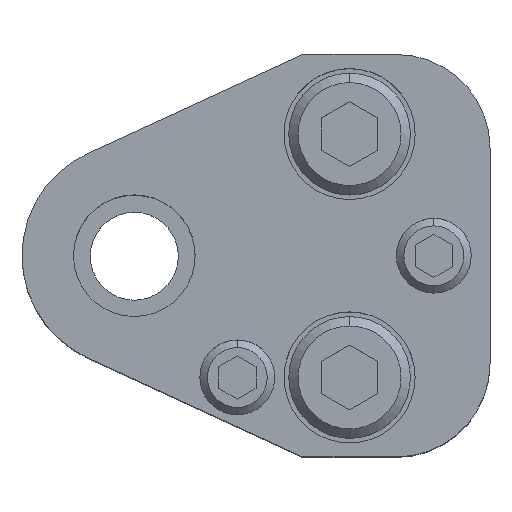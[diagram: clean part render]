
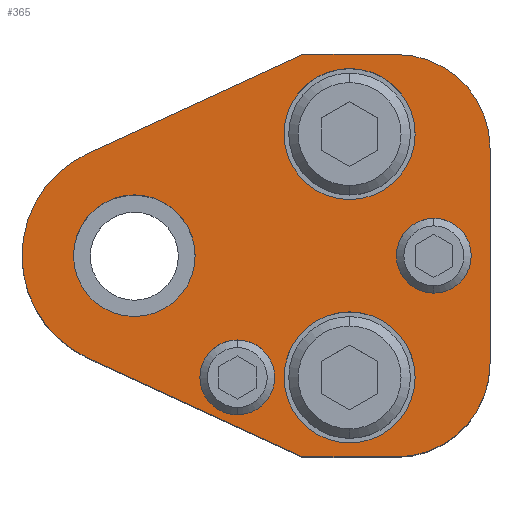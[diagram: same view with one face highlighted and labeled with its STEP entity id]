
A CAD part, top view. The second image highlights one B-rep face of the part: STEP entity #365.
In plain terms, the highlighted planar face has unit normal (0, 0, 1).
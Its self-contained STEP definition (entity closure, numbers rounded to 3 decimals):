
#134=PLANE('',#2757);
#204=FACE_BOUND('',#701,.T.);
#205=FACE_BOUND('',#702,.T.);
#206=FACE_BOUND('',#703,.T.);
#207=FACE_BOUND('',#704,.T.);
#208=FACE_BOUND('',#705,.T.);
#209=FACE_BOUND('',#706,.T.);
#365=ADVANCED_FACE('',(#204,#205,#206,#207,#208,#209),#134,.T.);
#701=EDGE_LOOP('',(#1265,#1266,#1267,#1268,#1269,#1270,#1271,#1272));
#702=EDGE_LOOP('',(#1273,#1274));
#703=EDGE_LOOP('',(#1275,#1276));
#704=EDGE_LOOP('',(#1277,#1278));
#705=EDGE_LOOP('',(#1279,#1280));
#706=EDGE_LOOP('',(#1281,#1282));
#859=CIRCLE('',#2700,12.);
#861=CIRCLE('',#2705,10.);
#863=CIRCLE('',#2709,10.);
#881=CIRCLE('',#2737,7.);
#883=CIRCLE('',#2740,7.);
#885=CIRCLE('',#2744,7.);
#887=CIRCLE('',#2747,7.);
#889=CIRCLE('',#2751,4.);
#890=CIRCLE('',#2752,4.);
#891=CIRCLE('',#2753,4.);
#892=CIRCLE('',#2754,4.);
#893=CIRCLE('',#2755,6.5);
#894=CIRCLE('',#2756,6.5);
#1265=ORIENTED_EDGE('',*,*,#1976,.T.);
#1266=ORIENTED_EDGE('',*,*,#1980,.T.);
#1267=ORIENTED_EDGE('',*,*,#1983,.T.);
#1268=ORIENTED_EDGE('',*,*,#1986,.T.);
#1269=ORIENTED_EDGE('',*,*,#1989,.T.);
#1270=ORIENTED_EDGE('',*,*,#1992,.T.);
#1271=ORIENTED_EDGE('',*,*,#1995,.T.);
#1272=ORIENTED_EDGE('',*,*,#1998,.T.);
#1273=ORIENTED_EDGE('',*,*,#2033,.F.);
#1274=ORIENTED_EDGE('',*,*,#2034,.F.);
#1275=ORIENTED_EDGE('',*,*,#2035,.F.);
#1276=ORIENTED_EDGE('',*,*,#2036,.F.);
#1277=ORIENTED_EDGE('',*,*,#2031,.F.);
#1278=ORIENTED_EDGE('',*,*,#2027,.F.);
#1279=ORIENTED_EDGE('',*,*,#2025,.F.);
#1280=ORIENTED_EDGE('',*,*,#2021,.F.);
#1281=ORIENTED_EDGE('',*,*,#2037,.T.);
#1282=ORIENTED_EDGE('',*,*,#2038,.T.);
#1716=VERTEX_POINT('',#3980);
#1717=VERTEX_POINT('',#3982);
#1720=VERTEX_POINT('',#3989);
#1722=VERTEX_POINT('',#3995);
#1724=VERTEX_POINT('',#4001);
#1726=VERTEX_POINT('',#4007);
#1728=VERTEX_POINT('',#4013);
#1730=VERTEX_POINT('',#4019);
#1747=VERTEX_POINT('',#4072);
#1748=VERTEX_POINT('',#4073);
#1751=VERTEX_POINT('',#4085);
#1752=VERTEX_POINT('',#4086);
#1755=VERTEX_POINT('',#4098);
#1756=VERTEX_POINT('',#4099);
#1757=VERTEX_POINT('',#4102);
#1758=VERTEX_POINT('',#4103);
#1759=VERTEX_POINT('',#4106);
#1760=VERTEX_POINT('',#4107);
#1976=EDGE_CURVE('',#1717,#1716,#859,.T.);
#1980=EDGE_CURVE('',#1716,#1720,#2266,.T.);
#1983=EDGE_CURVE('',#1720,#1722,#2269,.T.);
#1986=EDGE_CURVE('',#1722,#1724,#861,.T.);
#1989=EDGE_CURVE('',#1724,#1726,#2273,.T.);
#1992=EDGE_CURVE('',#1726,#1728,#863,.T.);
#1995=EDGE_CURVE('',#1728,#1730,#2277,.T.);
#1998=EDGE_CURVE('',#1730,#1717,#2280,.T.);
#2021=EDGE_CURVE('',#1747,#1748,#881,.T.);
#2025=EDGE_CURVE('',#1748,#1747,#883,.T.);
#2027=EDGE_CURVE('',#1751,#1752,#885,.T.);
#2031=EDGE_CURVE('',#1752,#1751,#887,.T.);
#2033=EDGE_CURVE('',#1755,#1756,#889,.T.);
#2034=EDGE_CURVE('',#1756,#1755,#890,.T.);
#2035=EDGE_CURVE('',#1757,#1758,#891,.T.);
#2036=EDGE_CURVE('',#1758,#1757,#892,.T.);
#2037=EDGE_CURVE('',#1759,#1760,#893,.T.);
#2038=EDGE_CURVE('',#1760,#1759,#894,.T.);
#2266=LINE('',#3990,#2458);
#2269=LINE('',#3996,#2461);
#2273=LINE('',#4008,#2465);
#2277=LINE('',#4020,#2469);
#2280=LINE('',#4024,#2472);
#2458=VECTOR('',#3164,1.);
#2461=VECTOR('',#3169,1.);
#2465=VECTOR('',#3181,1.);
#2469=VECTOR('',#3193,1.);
#2472=VECTOR('',#3198,1.);
#2700=AXIS2_PLACEMENT_3D('',#3981,#3156,#3157);
#2705=AXIS2_PLACEMENT_3D('',#4002,#3174,#3175);
#2709=AXIS2_PLACEMENT_3D('',#4014,#3186,#3187);
#2737=AXIS2_PLACEMENT_3D('',#4071,#3253,#3254);
#2740=AXIS2_PLACEMENT_3D('',#4080,#3261,#3262);
#2744=AXIS2_PLACEMENT_3D('',#4084,#3269,#3270);
#2747=AXIS2_PLACEMENT_3D('',#4093,#3277,#3278);
#2751=AXIS2_PLACEMENT_3D('',#4097,#3285,#3286);
#2752=AXIS2_PLACEMENT_3D('',#4100,#3287,#3288);
#2753=AXIS2_PLACEMENT_3D('',#4101,#3289,#3290);
#2754=AXIS2_PLACEMENT_3D('',#4104,#3291,#3292);
#2755=AXIS2_PLACEMENT_3D('',#4105,#3293,#3294);
#2756=AXIS2_PLACEMENT_3D('',#4108,#3295,#3296);
#2757=AXIS2_PLACEMENT_3D('',#4109,#3297,#3298);
#3156=DIRECTION('',(0.,0.,1.));
#3157=DIRECTION('',(-0.106,0.994,0.));
#3164=DIRECTION('',(0.908,-0.418,0.));
#3169=DIRECTION('',(1.,0.,0.));
#3174=DIRECTION('',(0.,0.,1.));
#3175=DIRECTION('',(-0.707,0.707,0.));
#3181=DIRECTION('',(0.,1.,0.));
#3186=DIRECTION('',(0.,0.,1.));
#3187=DIRECTION('',(-0.707,-0.707,0.));
#3193=DIRECTION('',(-1.,0.,0.));
#3198=DIRECTION('',(-0.908,-0.418,0.));
#3253=DIRECTION('',(0.,0.,1.));
#3254=DIRECTION('',(-1.,0.,0.));
#3261=DIRECTION('',(0.,0.,1.));
#3262=DIRECTION('',(1.,0.,0.));
#3269=DIRECTION('',(0.,0.,1.));
#3270=DIRECTION('',(-1.,0.,0.));
#3277=DIRECTION('',(0.,0.,1.));
#3278=DIRECTION('',(1.,0.,0.));
#3285=DIRECTION('',(0.,0.,1.));
#3286=DIRECTION('',(1.,0.,0.));
#3287=DIRECTION('',(0.,0.,1.));
#3288=DIRECTION('',(-1.,0.,0.));
#3289=DIRECTION('',(0.,0.,1.));
#3290=DIRECTION('',(1.,0.,0.));
#3291=DIRECTION('',(0.,0.,1.));
#3292=DIRECTION('',(-1.,0.,0.));
#3293=DIRECTION('',(0.,0.,-1.));
#3294=DIRECTION('',(-1.,0.,0.));
#3295=DIRECTION('',(0.,0.,-1.));
#3296=DIRECTION('',(1.,0.,0.));
#3297=DIRECTION('',(0.,0.,1.));
#3298=DIRECTION('',(0.908,0.418,0.));
#3980=CARTESIAN_POINT('',(-5.019,-10.9,35.));
#3981=CARTESIAN_POINT('',(0.,0.,35.));
#3982=CARTESIAN_POINT('',(-5.019,10.9,35.));
#3989=CARTESIAN_POINT('',(18.,-21.5,35.));
#3990=CARTESIAN_POINT('',(18.,-21.5,35.));
#3995=CARTESIAN_POINT('',(28.,-21.5,35.));
#3996=CARTESIAN_POINT('',(28.,-21.5,35.));
#4001=CARTESIAN_POINT('',(38.,-11.5,35.));
#4002=CARTESIAN_POINT('',(28.,-11.5,35.));
#4007=CARTESIAN_POINT('',(38.,11.5,35.));
#4008=CARTESIAN_POINT('',(38.,11.5,35.));
#4013=CARTESIAN_POINT('',(28.,21.5,35.));
#4014=CARTESIAN_POINT('',(28.,11.5,35.));
#4019=CARTESIAN_POINT('',(18.,21.5,35.));
#4020=CARTESIAN_POINT('',(28.,21.5,35.));
#4024=CARTESIAN_POINT('',(18.,21.5,35.));
#4071=CARTESIAN_POINT('',(23.,13.,35.));
#4072=CARTESIAN_POINT('',(23.,6.,35.));
#4073=CARTESIAN_POINT('',(23.,20.,35.));
#4080=CARTESIAN_POINT('',(23.,13.,35.));
#4084=CARTESIAN_POINT('',(23.,-13.,35.));
#4085=CARTESIAN_POINT('',(23.,-20.,35.));
#4086=CARTESIAN_POINT('',(23.,-6.,35.));
#4093=CARTESIAN_POINT('',(23.,-13.,35.));
#4097=CARTESIAN_POINT('',(11.,-13.,35.));
#4098=CARTESIAN_POINT('',(11.,-9.,35.));
#4099=CARTESIAN_POINT('',(11.,-17.,35.));
#4100=CARTESIAN_POINT('',(11.,-13.,35.));
#4101=CARTESIAN_POINT('',(32.,0.,35.));
#4102=CARTESIAN_POINT('',(32.,4.,35.));
#4103=CARTESIAN_POINT('',(32.,-4.,35.));
#4104=CARTESIAN_POINT('',(32.,0.,35.));
#4105=CARTESIAN_POINT('',(0.,0.,35.));
#4106=CARTESIAN_POINT('',(0.,6.5,35.));
#4107=CARTESIAN_POINT('',(0.,-6.5,35.));
#4108=CARTESIAN_POINT('',(0.,0.,35.));
#4109=CARTESIAN_POINT('',(-5.019,10.9,35.));
